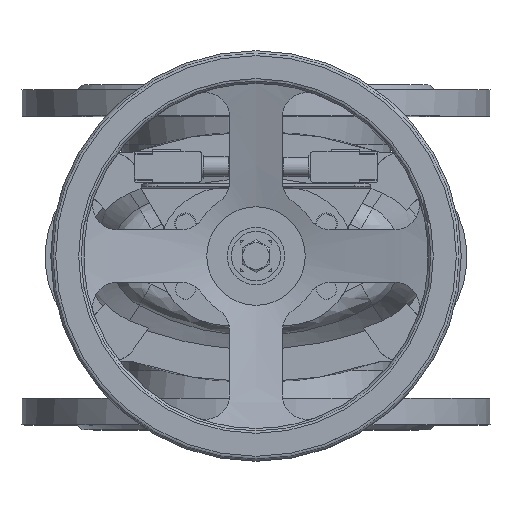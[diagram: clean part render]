
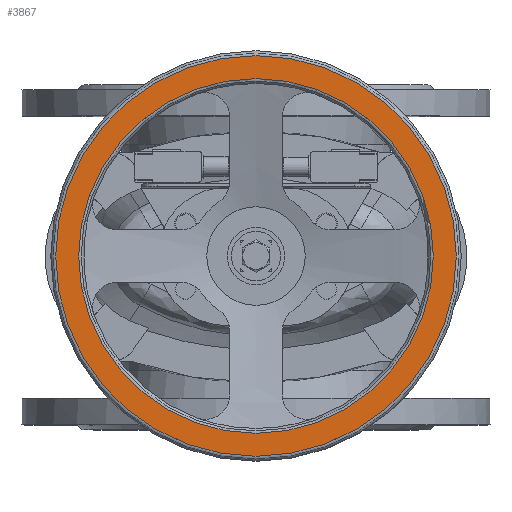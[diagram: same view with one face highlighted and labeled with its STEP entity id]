
A CAD part, top view. The second image highlights one B-rep face of the part: STEP entity #3867.
In plain terms, the highlighted planar face has unit normal (0, 0, 1).
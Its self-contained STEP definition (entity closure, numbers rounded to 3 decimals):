
#3867=ADVANCED_FACE('',(#8028,#8030),#8032,.T.);
#8028=FACE_BOUND('',#8029,.T.);
#8029=EDGE_LOOP('',(#10501));
#8030=FACE_BOUND('',#8031,.T.);
#8031=EDGE_LOOP('',(#10502));
#8032=PLANE('',#8033);
#8033=AXIS2_PLACEMENT_3D('',#8034,#8035,#8036);
#8034=CARTESIAN_POINT('',(0.,0.,520.));
#8035=DIRECTION('',(0.,0.,1.));
#8036=DIRECTION('',(0.,-1.,0.));
#10501=ORIENTED_EDGE('',*,*,#11731,.T.);
#10502=ORIENTED_EDGE('',*,*,#11728,.F.);
#11728=EDGE_CURVE('',#13620,#13620,#13621,.T.);
#11731=EDGE_CURVE('',#13626,#13626,#13627,.T.);
#13620=VERTEX_POINT('',#23992);
#13621=CIRCLE('',#23993,108.);
#13626=VERTEX_POINT('',#24007);
#13627=CIRCLE('',#24008,122.);
#23992=CARTESIAN_POINT('',(0.,-108.,520.));
#23993=AXIS2_PLACEMENT_3D('',#23994,#23995,#23996);
#23994=CARTESIAN_POINT('',(0.,0.,520.));
#23995=DIRECTION('',(0.,0.,1.));
#23996=DIRECTION('',(0.,-1.,0.));
#24007=CARTESIAN_POINT('',(0.,-122.,520.));
#24008=AXIS2_PLACEMENT_3D('',#24009,#24010,#24011);
#24009=CARTESIAN_POINT('',(0.,0.,520.));
#24010=DIRECTION('',(0.,0.,1.));
#24011=DIRECTION('',(0.,-1.,0.));
